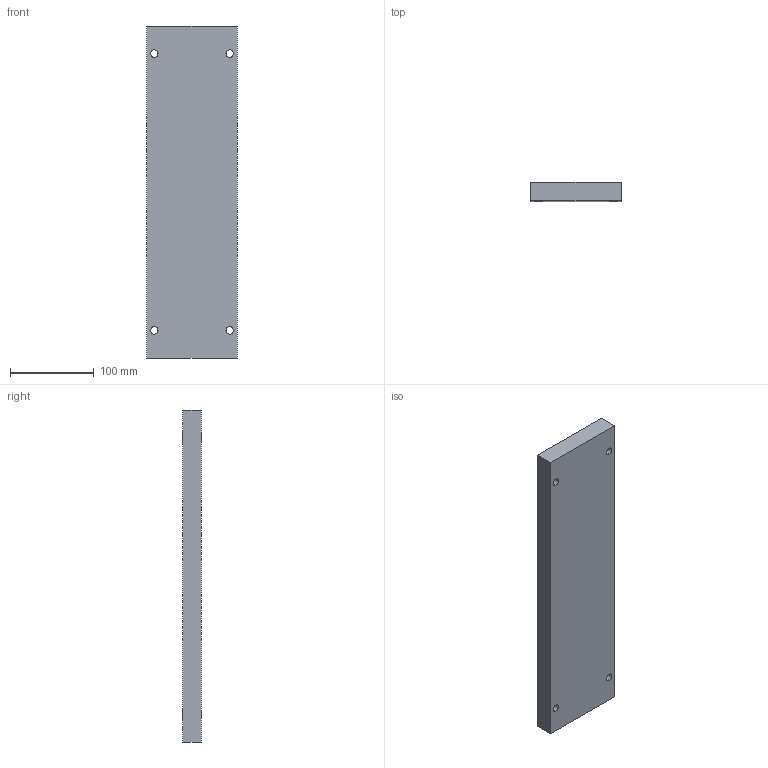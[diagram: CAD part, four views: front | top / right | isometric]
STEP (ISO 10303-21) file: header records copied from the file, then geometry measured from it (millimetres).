
FILE_DESCRIPTION (( 'STEP AP214' ), '1' );
FILE_NAME ('L60_196x396x022.STEP', '2018-10-08T17:35:24', ( '' ), ( '' ), 'SwSTEP 2.0', 'SolidWorks 2014', '' );
FILE_SCHEMA (( 'AUTOMOTIVE_DESIGN' ));
Length unit declared in the file: millimetre
Products named in the file (1): L60_196x396x022
Bounding box: 108 x 22 x 396 mm (x, y, z)
Volume: 930937.8 mm3; surface area: 110711.4 mm2
Topology: 1 solids, 1 shells, 42 faces, 100 edges, 60 vertices
Faces by surface type: cylinder 24, plane 10, cone 8
Entity records: 1222 total; most frequent: DIRECTION 226, CARTESIAN_POINT 195, ORIENTED_EDGE 184, EDGE_CURVE 92, AXIS2_PLACEMENT_3D 91, VERTEX_POINT 60, EDGE_LOOP 58, CIRCLE 48
